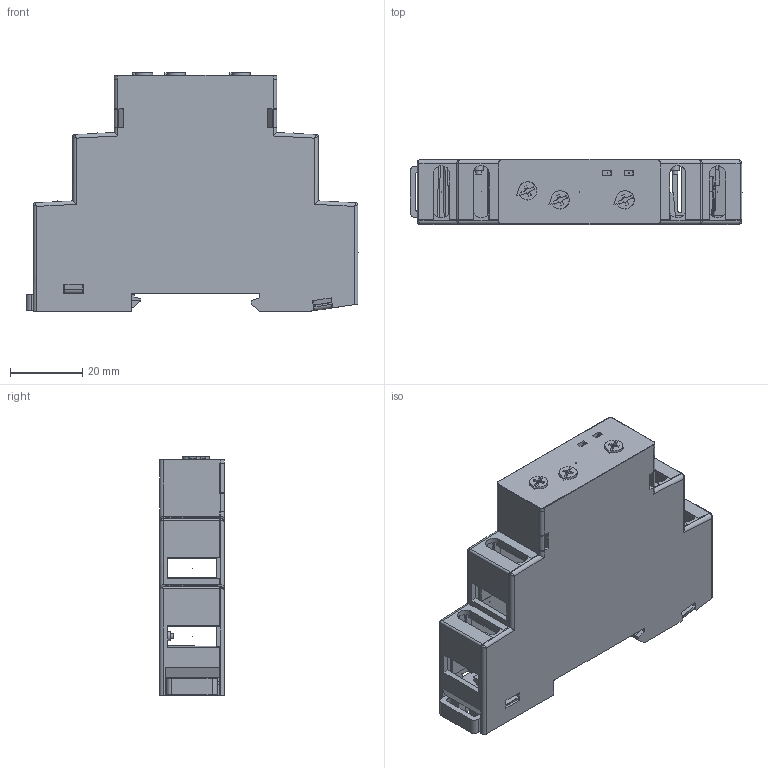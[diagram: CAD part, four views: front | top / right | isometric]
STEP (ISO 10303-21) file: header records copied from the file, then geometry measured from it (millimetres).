
FILE_DESCRIPTION( ( 'Unknown' ), '1' );
FILE_NAME( 'Z:/GIC/Marketing requirement/3D drawing to Altech - SGA/1M MULTIMODE TIMER 16A/ 1M MULTIFUNCTION TIMER (16A).stp', 'Unknown', ( 'Unknown' ), ( 'Unknown' ), 'PSStep 17.0.49', 'Unknown', ' ' );
FILE_SCHEMA( ( 'AUTOMOTIVE_DESIGN { 1 0 10303 214 1 1 1 1 }' ) );
Length unit declared in the file: millimetre
Products named in the file (13): 1F1109_REV_02_DINRAIL_CLIP
Bounding box: 92.05 x 18 x 66.25 mm (x, y, z)
Volume: 18067.1 mm3; surface area: 32472.9 mm2
Topology: 13 solids, 13 shells, 1392 faces, 4036 edges, 2624 vertices
Faces by surface type: plane 1108, cylinder 244, cone 25, bspline 8, torus 7
Full cylindrical faces by diameter (mm): 0.03 x1, 0.05 x7, 0.07 x2, 0.1 x3, 0.15 x1, 1.5 x2, 1.9 x1, 2.5 x2, 4.5 x3, 5 x3, 5.1 x3, 6.5 x3
Entity records: 56887 total; most frequent: CARTESIAN_POINT 8790, ORIENTED_EDGE 7924, DIRECTION 7321, EDGE_CURVE 3962, LINE 3309, VECTOR 3309, VERTEX_POINT 2599, AXIS2_PLACEMENT_3D 2006
